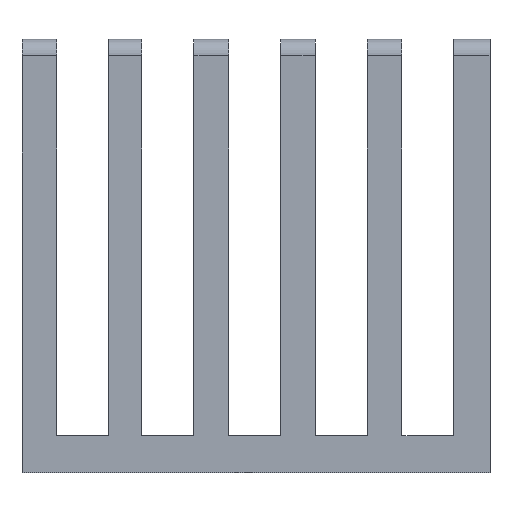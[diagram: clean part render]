
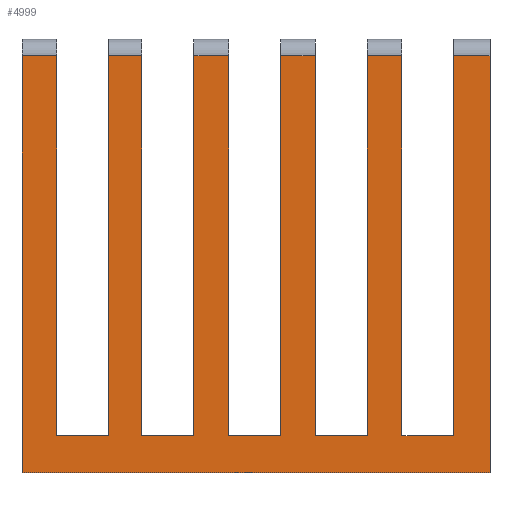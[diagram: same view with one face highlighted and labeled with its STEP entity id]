
A CAD part, left-side view. The second image highlights one B-rep face of the part: STEP entity #4999.
In plain terms, the highlighted planar face has unit normal (-1, 0, 0).
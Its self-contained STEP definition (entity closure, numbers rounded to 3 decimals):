
#1420=ORIENTED_EDGE('',*,*,#2399,.T.);
#1421=ORIENTED_EDGE('',*,*,#2320,.T.);
#1422=ORIENTED_EDGE('',*,*,#2400,.T.);
#1423=ORIENTED_EDGE('',*,*,#2288,.T.);
#1424=ORIENTED_EDGE('',*,*,#2286,.T.);
#1425=ORIENTED_EDGE('',*,*,#2294,.T.);
#1426=ORIENTED_EDGE('',*,*,#2401,.T.);
#1427=ORIENTED_EDGE('',*,*,#2297,.T.);
#1428=ORIENTED_EDGE('',*,*,#2283,.T.);
#1429=ORIENTED_EDGE('',*,*,#2301,.T.);
#1430=ORIENTED_EDGE('',*,*,#2402,.T.);
#1431=ORIENTED_EDGE('',*,*,#2303,.T.);
#1432=ORIENTED_EDGE('',*,*,#2280,.T.);
#1433=ORIENTED_EDGE('',*,*,#2307,.T.);
#1434=ORIENTED_EDGE('',*,*,#2403,.T.);
#1435=ORIENTED_EDGE('',*,*,#2309,.T.);
#1436=ORIENTED_EDGE('',*,*,#2277,.T.);
#1437=ORIENTED_EDGE('',*,*,#2313,.T.);
#1438=ORIENTED_EDGE('',*,*,#2404,.T.);
#1439=ORIENTED_EDGE('',*,*,#2317,.T.);
#1440=ORIENTED_EDGE('',*,*,#2370,.T.);
#1441=ORIENTED_EDGE('',*,*,#1905,.T.);
#1442=ORIENTED_EDGE('',*,*,#2398,.T.);
#1443=ORIENTED_EDGE('',*,*,#1954,.F.);
#1905=EDGE_CURVE('',#2611,#2610,#3071,.T.);
#1954=EDGE_CURVE('',#2656,#2657,#3105,.T.);
#2277=EDGE_CURVE('',#2866,#2867,#3381,.F.);
#2280=EDGE_CURVE('',#2868,#2869,#3382,.F.);
#2283=EDGE_CURVE('',#2870,#2871,#3383,.F.);
#2286=EDGE_CURVE('',#2872,#2873,#3384,.F.);
#2288=EDGE_CURVE('',#2875,#2872,#3385,.T.);
#2294=EDGE_CURVE('',#2873,#2879,#3390,.T.);
#2297=EDGE_CURVE('',#2880,#2870,#3392,.T.);
#2301=EDGE_CURVE('',#2871,#2881,#3395,.T.);
#2303=EDGE_CURVE('',#2882,#2868,#3396,.T.);
#2307=EDGE_CURVE('',#2869,#2883,#3399,.T.);
#2309=EDGE_CURVE('',#2884,#2866,#3400,.T.);
#2313=EDGE_CURVE('',#2867,#2885,#3403,.T.);
#2317=EDGE_CURVE('',#2889,#2888,#3405,.T.);
#2320=EDGE_CURVE('',#2891,#2890,#3408,.T.);
#2370=EDGE_CURVE('',#2888,#2611,#3436,.F.);
#2398=EDGE_CURVE('',#2610,#2657,#3460,.T.);
#2399=EDGE_CURVE('',#2656,#2891,#3461,.F.);
#2400=EDGE_CURVE('',#2890,#2875,#3462,.T.);
#2401=EDGE_CURVE('',#2879,#2880,#3463,.T.);
#2402=EDGE_CURVE('',#2881,#2882,#3464,.T.);
#2403=EDGE_CURVE('',#2883,#2884,#3465,.T.);
#2404=EDGE_CURVE('',#2885,#2889,#3466,.T.);
#2610=VERTEX_POINT('',#7258);
#2611=VERTEX_POINT('',#7260);
#2656=VERTEX_POINT('',#7354);
#2657=VERTEX_POINT('',#7356);
#2866=VERTEX_POINT('',#8015);
#2867=VERTEX_POINT('',#8017);
#2868=VERTEX_POINT('',#8021);
#2869=VERTEX_POINT('',#8023);
#2870=VERTEX_POINT('',#8027);
#2871=VERTEX_POINT('',#8029);
#2872=VERTEX_POINT('',#8033);
#2873=VERTEX_POINT('',#8035);
#2875=VERTEX_POINT('',#8041);
#2879=VERTEX_POINT('',#8052);
#2880=VERTEX_POINT('',#8058);
#2881=VERTEX_POINT('',#8064);
#2882=VERTEX_POINT('',#8069);
#2883=VERTEX_POINT('',#8075);
#2884=VERTEX_POINT('',#8080);
#2885=VERTEX_POINT('',#8086);
#2888=VERTEX_POINT('',#8094);
#2889=VERTEX_POINT('',#8096);
#2890=VERTEX_POINT('',#8100);
#2891=VERTEX_POINT('',#8102);
#3071=LINE('',#7259,#3649);
#3105=LINE('',#7355,#3683);
#3381=LINE('',#8018,#3959);
#3382=LINE('',#8024,#3960);
#3383=LINE('',#8030,#3961);
#3384=LINE('',#8036,#3962);
#3385=LINE('',#8040,#3963);
#3390=LINE('',#8053,#3968);
#3392=LINE('',#8057,#3970);
#3395=LINE('',#8065,#3973);
#3396=LINE('',#8068,#3974);
#3399=LINE('',#8076,#3977);
#3400=LINE('',#8079,#3978);
#3403=LINE('',#8087,#3981);
#3405=LINE('',#8095,#3983);
#3408=LINE('',#8101,#3986);
#3436=LINE('',#8194,#4014);
#3460=LINE('',#8249,#4038);
#3461=LINE('',#8251,#4039);
#3462=LINE('',#8252,#4040);
#3463=LINE('',#8253,#4041);
#3464=LINE('',#8254,#4042);
#3465=LINE('',#8255,#4043);
#3466=LINE('',#8256,#4044);
#3649=VECTOR('',#5752,1000.);
#3683=VECTOR('',#5818,1000.);
#3959=VECTOR('',#6446,1000.);
#3960=VECTOR('',#6453,1000.);
#3961=VECTOR('',#6460,1000.);
#3962=VECTOR('',#6467,1000.);
#3963=VECTOR('',#6472,1000.);
#3968=VECTOR('',#6483,1000.);
#3970=VECTOR('',#6489,1000.);
#3973=VECTOR('',#6498,1000.);
#3974=VECTOR('',#6503,1000.);
#3977=VECTOR('',#6512,1000.);
#3978=VECTOR('',#6517,1000.);
#3981=VECTOR('',#6526,1000.);
#3983=VECTOR('',#6534,1000.);
#3986=VECTOR('',#6539,1000.);
#4014=VECTOR('',#6671,1000.);
#4038=VECTOR('',#6741,1000.);
#4039=VECTOR('',#6744,1000.);
#4040=VECTOR('',#6745,1000.);
#4041=VECTOR('',#6746,1000.);
#4042=VECTOR('',#6747,1000.);
#4043=VECTOR('',#6748,1000.);
#4044=VECTOR('',#6749,1000.);
#4281=EDGE_LOOP('',(#1420,#1421,#1422,#1423,#1424,#1425,#1426,#1427,#1428,
#1429,#1430,#1431,#1432,#1433,#1434,#1435,#1436,#1437,#1438,#1439,#1440,
#1441,#1442,#1443));
#4549=FACE_BOUND('',#4281,.T.);
#4759=PLANE('',#5414);
#4999=ADVANCED_FACE('',(#4549),#4759,.F.);
#5414=AXIS2_PLACEMENT_3D('',#8250,#6742,#6743);
#5752=DIRECTION('',(0.,0.,-1.));
#5818=DIRECTION('',(0.,0.,-1.));
#6446=DIRECTION('',(0.,-1.,0.));
#6453=DIRECTION('',(0.,-1.,0.));
#6460=DIRECTION('',(0.,-1.,0.));
#6467=DIRECTION('',(0.,-1.,0.));
#6472=DIRECTION('',(0.,0.,1.));
#6483=DIRECTION('',(0.,0.,-1.));
#6489=DIRECTION('',(0.,0.,1.));
#6498=DIRECTION('',(0.,0.,-1.));
#6503=DIRECTION('',(0.,0.,1.));
#6512=DIRECTION('',(0.,0.,-1.));
#6517=DIRECTION('',(0.,0.,1.));
#6526=DIRECTION('',(0.,0.,-1.));
#6534=DIRECTION('',(0.,0.,1.));
#6539=DIRECTION('',(0.,0.,-1.));
#6671=DIRECTION('',(0.,-1.,0.));
#6741=DIRECTION('',(0.,-1.,0.));
#6742=DIRECTION('',(1.,0.,0.));
#6743=DIRECTION('',(0.,0.,-1.));
#6744=DIRECTION('',(0.,-1.,0.));
#6745=DIRECTION('',(0.,1.,0.));
#6746=DIRECTION('',(0.,1.,0.));
#6747=DIRECTION('',(0.,1.,0.));
#6748=DIRECTION('',(0.,1.,0.));
#6749=DIRECTION('',(0.,1.,0.));
#7258=CARTESIAN_POINT('',(-13.5,13.5,0.));
#7259=CARTESIAN_POINT('',(-13.5,13.5,25.));
#7260=CARTESIAN_POINT('',(-13.5,13.5,24.05));
#7354=CARTESIAN_POINT('',(-13.5,-13.5,24.05));
#7355=CARTESIAN_POINT('',(-13.5,-13.5,25.));
#7356=CARTESIAN_POINT('',(-13.5,-13.5,0.));
#8015=CARTESIAN_POINT('',(-13.5,6.582,24.05));
#8017=CARTESIAN_POINT('',(-13.5,8.5,24.05));
#8018=CARTESIAN_POINT('',(-13.5,13.5,24.05));
#8021=CARTESIAN_POINT('',(-13.5,1.582,24.05));
#8023=CARTESIAN_POINT('',(-13.5,3.582,24.05));
#8024=CARTESIAN_POINT('',(-13.5,13.5,24.05));
#8027=CARTESIAN_POINT('',(-13.5,-3.418,24.05));
#8029=CARTESIAN_POINT('',(-13.5,-1.418,24.05));
#8030=CARTESIAN_POINT('',(-13.5,13.5,24.05));
#8033=CARTESIAN_POINT('',(-13.5,-8.418,24.05));
#8035=CARTESIAN_POINT('',(-13.5,-6.418,24.05));
#8036=CARTESIAN_POINT('',(-13.5,13.5,24.05));
#8040=CARTESIAN_POINT('',(-13.5,-8.418,25.));
#8041=CARTESIAN_POINT('',(-13.5,-8.418,2.137));
#8052=CARTESIAN_POINT('',(-13.5,-6.418,2.137));
#8053=CARTESIAN_POINT('',(-13.5,-6.418,25.));
#8057=CARTESIAN_POINT('',(-13.5,-3.418,25.));
#8058=CARTESIAN_POINT('',(-13.5,-3.418,2.137));
#8064=CARTESIAN_POINT('',(-13.5,-1.418,2.137));
#8065=CARTESIAN_POINT('',(-13.5,-1.418,25.));
#8068=CARTESIAN_POINT('',(-13.5,1.582,25.));
#8069=CARTESIAN_POINT('',(-13.5,1.582,2.137));
#8075=CARTESIAN_POINT('',(-13.5,3.582,2.137));
#8076=CARTESIAN_POINT('',(-13.5,3.582,25.));
#8079=CARTESIAN_POINT('',(-13.5,6.582,25.));
#8080=CARTESIAN_POINT('',(-13.5,6.582,2.137));
#8086=CARTESIAN_POINT('',(-13.5,8.5,2.137));
#8087=CARTESIAN_POINT('',(-13.5,8.5,25.));
#8094=CARTESIAN_POINT('',(-13.5,11.5,24.05));
#8095=CARTESIAN_POINT('',(-13.5,11.5,25.));
#8096=CARTESIAN_POINT('',(-13.5,11.5,2.137));
#8100=CARTESIAN_POINT('',(-13.5,-11.418,2.137));
#8101=CARTESIAN_POINT('',(-13.5,-11.418,25.));
#8102=CARTESIAN_POINT('',(-13.5,-11.418,24.05));
#8194=CARTESIAN_POINT('',(-13.5,13.5,24.05));
#8249=CARTESIAN_POINT('',(-13.5,13.5,0.));
#8250=CARTESIAN_POINT('',(-13.5,13.5,25.));
#8251=CARTESIAN_POINT('',(-13.5,13.5,24.05));
#8252=CARTESIAN_POINT('',(-13.5,13.5,2.137));
#8253=CARTESIAN_POINT('',(-13.5,13.5,2.137));
#8254=CARTESIAN_POINT('',(-13.5,13.5,2.137));
#8255=CARTESIAN_POINT('',(-13.5,13.5,2.137));
#8256=CARTESIAN_POINT('',(-13.5,13.5,2.137));
